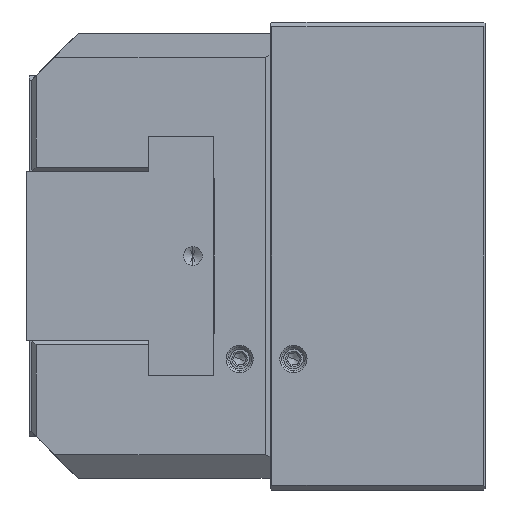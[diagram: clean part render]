
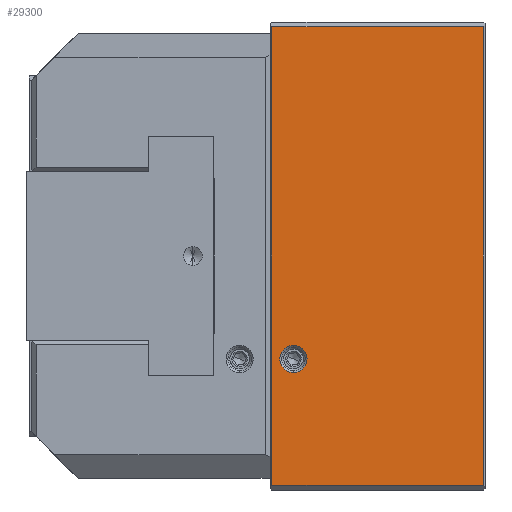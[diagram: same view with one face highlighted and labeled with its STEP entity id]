
A CAD part, left-side view. The second image highlights one B-rep face of the part: STEP entity #29300.
In plain terms, the highlighted planar face has unit normal (-1, 0, 0).
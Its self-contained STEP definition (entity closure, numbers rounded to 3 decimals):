
#30 = EDGE_CURVE ( 'NONE', #34744, #8066, #52180, .T. ) ;
#587 = ORIENTED_EDGE ( 'NONE', *, *, #47223, .T. ) ;
#2156 = CARTESIAN_POINT ( 'NONE',  ( -72.5, -45.6, 49. ) ) ;
#3253 = ORIENTED_EDGE ( 'NONE', *, *, #33661, .F. ) ;
#3638 = CARTESIAN_POINT ( 'NONE',  ( -72.5, -5., -24.9 ) ) ;
#4265 = DIRECTION ( 'NONE',  ( 0., 0., 1. ) ) ;
#4559 = EDGE_LOOP ( 'NONE', ( #6670, #587, #40811, #7715 ) ) ;
#5046 = CARTESIAN_POINT ( 'NONE',  ( -72.5, -45.6, 49. ) ) ;
#5361 = CARTESIAN_POINT ( 'NONE',  ( -72.5, -5., -22. ) ) ;
#5638 = DIRECTION ( 'NONE',  ( 0., 0., 1. ) ) ;
#6670 = ORIENTED_EDGE ( 'NONE', *, *, #30, .T. ) ;
#7715 = ORIENTED_EDGE ( 'NONE', *, *, #17180, .T. ) ;
#7734 = DIRECTION ( 'NONE',  ( 0., 0., -1. ) ) ;
#7801 = VERTEX_POINT ( 'NONE', #11056 ) ;
#8066 = VERTEX_POINT ( 'NONE', #21417 ) ;
#8234 = CARTESIAN_POINT ( 'NONE',  ( -72.5, -46., 49. ) ) ;
#9583 = VECTOR ( 'NONE', #7734, 1000. ) ;
#10517 = LINE ( 'NONE', #2156, #13821 ) ;
#10568 = DIRECTION ( 'NONE',  ( -1., 0., 0. ) ) ;
#10833 = DIRECTION ( 'NONE',  ( 0., 1., 0. ) ) ;
#10845 = CARTESIAN_POINT ( 'NONE',  ( -72.5, -46., 49. ) ) ;
#10886 = CIRCLE ( 'NONE', #38373, 2.9 ) ;
#11056 = CARTESIAN_POINT ( 'NONE',  ( -72.5, -0.4, -49. ) ) ;
#12208 = CARTESIAN_POINT ( 'NONE',  ( -72.5, -45.6, -49. ) ) ;
#12318 = CARTESIAN_POINT ( 'NONE',  ( -72.5, -5., -22. ) ) ;
#13821 = VECTOR ( 'NONE', #19720, 1000. ) ;
#13864 = EDGE_LOOP ( 'NONE', ( #54634, #3253 ) ) ;
#17180 = EDGE_CURVE ( 'NONE', #54376, #34744, #10517, .T. ) ;
#17512 = EDGE_CURVE ( 'NONE', #54376, #7801, #23481, .T. ) ;
#19720 = DIRECTION ( 'NONE',  ( 0., 0., 1. ) ) ;
#21189 = DIRECTION ( 'NONE',  ( 0., 1., 0. ) ) ;
#21417 = CARTESIAN_POINT ( 'NONE',  ( -72.5, -0.4, 49. ) ) ;
#23481 = LINE ( 'NONE', #40698, #56042 ) ;
#27781 = FACE_OUTER_BOUND ( 'NONE', #4559, .T. ) ;
#28053 = DIRECTION ( 'NONE',  ( 0., 0., 1. ) ) ;
#29300 = ADVANCED_FACE ( 'NONE', ( #54498, #27781 ), #45301, .T. ) ;
#30362 = DIRECTION ( 'NONE',  ( -1., 0., 0. ) ) ;
#30700 = CARTESIAN_POINT ( 'NONE',  ( -72.5, -0.4, -49. ) ) ;
#32327 = VERTEX_POINT ( 'NONE', #3638 ) ;
#32493 = CIRCLE ( 'NONE', #39880, 2.9 ) ;
#33661 = EDGE_CURVE ( 'NONE', #32327, #37688, #10886, .T. ) ;
#34699 = LINE ( 'NONE', #30700, #9583 ) ;
#34744 = VERTEX_POINT ( 'NONE', #5046 ) ;
#37688 = VERTEX_POINT ( 'NONE', #46827 ) ;
#37998 = EDGE_CURVE ( 'NONE', #37688, #32327, #32493, .T. ) ;
#38373 = AXIS2_PLACEMENT_3D ( 'NONE', #5361, #53639, #5638 ) ;
#39880 = AXIS2_PLACEMENT_3D ( 'NONE', #12318, #30362, #4265 ) ;
#40698 = CARTESIAN_POINT ( 'NONE',  ( -72.5, -46., -49. ) ) ;
#40811 = ORIENTED_EDGE ( 'NONE', *, *, #17512, .F. ) ;
#43722 = AXIS2_PLACEMENT_3D ( 'NONE', #10845, #10568, #28053 ) ;
#45301 = PLANE ( 'NONE',  #43722 ) ;
#46827 = CARTESIAN_POINT ( 'NONE',  ( -72.5, -5., -19.1 ) ) ;
#47223 = EDGE_CURVE ( 'NONE', #8066, #7801, #34699, .T. ) ;
#52180 = LINE ( 'NONE', #8234, #55002 ) ;
#53639 = DIRECTION ( 'NONE',  ( -1., 0., 0. ) ) ;
#54376 = VERTEX_POINT ( 'NONE', #12208 ) ;
#54498 = FACE_BOUND ( 'NONE', #13864, .T. ) ;
#54634 = ORIENTED_EDGE ( 'NONE', *, *, #37998, .F. ) ;
#55002 = VECTOR ( 'NONE', #21189, 1000. ) ;
#56042 = VECTOR ( 'NONE', #10833, 1000. ) ;
